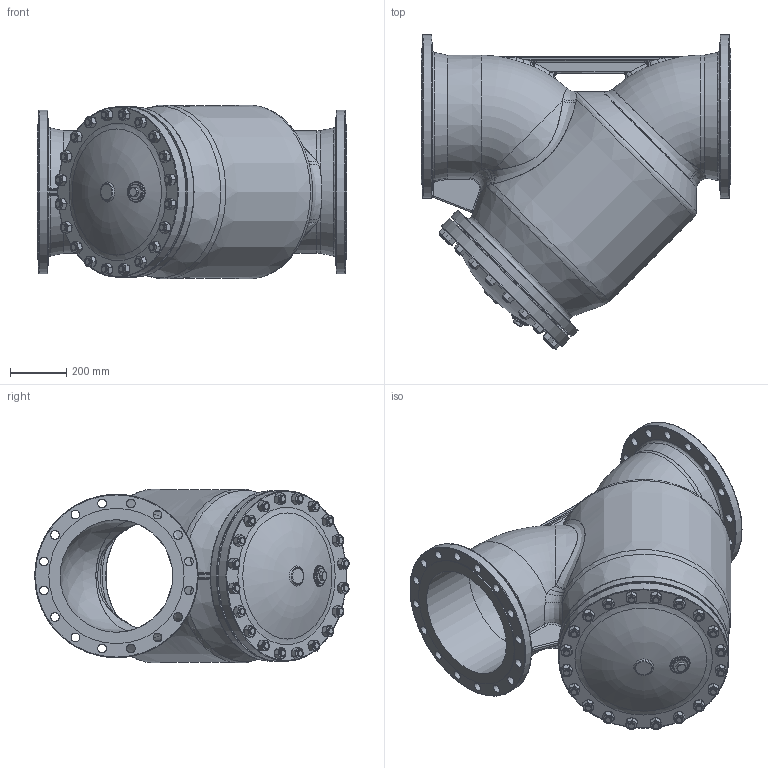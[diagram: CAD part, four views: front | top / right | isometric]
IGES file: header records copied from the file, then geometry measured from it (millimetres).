
Start section: SolidWorks IGES file using analytic representation for surfaces
Global section: file name: E:\SOLID WORKS 98\821\821_DN400_PN16.IGS; native system: SolidWorks 2014; preprocessor: SolidWorks 2014; author: alisowsk; date: 180425.114811; units: millimetre
Bounding box: 1100 x 1116.41 x 617.49 mm (x, y, z)
Surface area: 6178089.7 mm2 (no closed solid volume)
Topology: 0 solids, 0 shells, 1178 faces, 4778 edges, 4345 vertices
Faces by surface type: revolution 652, bspline 526
